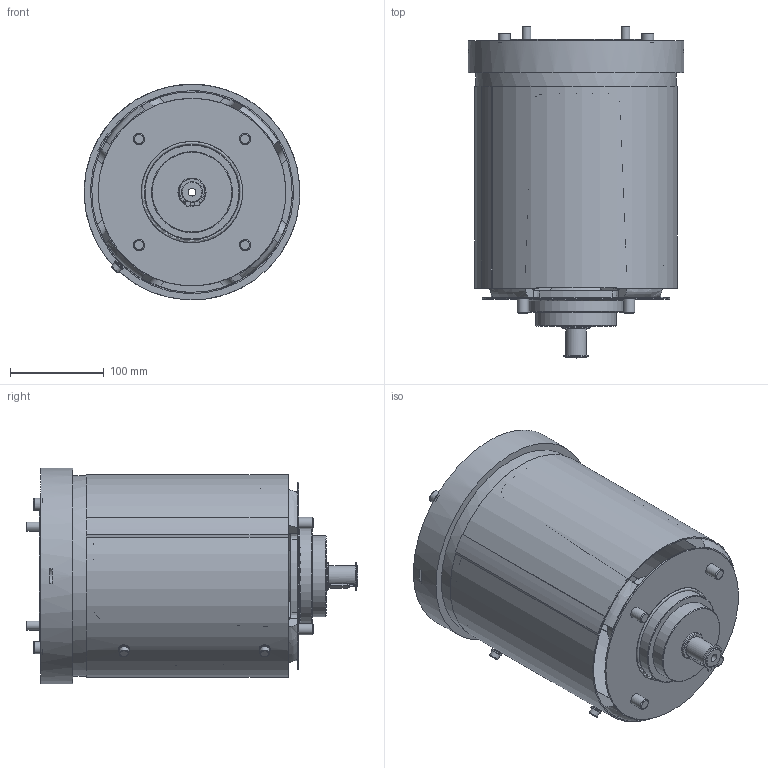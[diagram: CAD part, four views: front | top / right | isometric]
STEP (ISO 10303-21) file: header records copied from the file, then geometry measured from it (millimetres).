
FILE_DESCRIPTION(/* description */ (''),/* implementation_level */ '2;1');
FILE_NAME(/* name */ 'K:\NEMANJA\0700-6\CABLE REEL PART\0700-6\03 MCC\STP\42984_1.stp',/* time_stamp */ '2017-12-01T12:44:09+01:00',/* author */ ('vlakrc01'),/* organization */ ('Hillmar Industries Ltd.'),/* preprocessor_version */ 'ST-DEVELOPER v16.1',/* originating_system */ 'Autodesk Inventor 2016',/* authorisation */ '');
FILE_SCHEMA (('AUTOMOTIVE_DESIGN { 1 0 10303 214 3 1 1 }'));
Length unit declared in the file: millimetre
Products named in the file (1): 42984_Shrinkwrap_1
Bounding box: 229.97 x 353.85 x 229.81 mm (x, y, z)
Volume: 2325930.2 mm3; surface area: 554190.6 mm2
Topology: 1 solids, 1 shells, 418 faces, 1015 edges, 647 vertices
Faces by surface type: plane 218, cylinder 93, cone 80, torus 19, bspline 8
Full cylindrical faces by diameter (mm): 6 x4, 8 x4, 8.4 x1, 9.525 x4, 9.855 x4, 10 x2, 11.053 x4, 12 x6, 13 x4, 14 x4, 17.2 x4, 20.93 x1, 22.238 x1, 22.25 x2, 24 x4, 30.01 x1, 86.36 x1, 101.6 x1, 108.026 x1, 114 x1, 165 x1, 200 x2, 214 x1, 230 x1
Entity records: 12848 total; most frequent: CARTESIAN_POINT 3325, DIRECTION 1897, ORIENTED_EDGE 1782, EDGE_CURVE 887, AXIS2_PLACEMENT_3D 800, VERTEX_POINT 604, EDGE_LOOP 559, FACE_OUTER_BOUND 417
